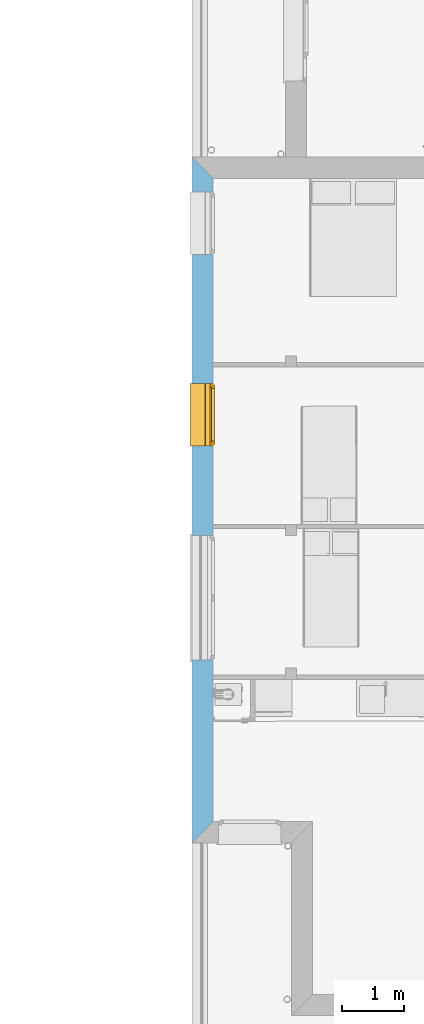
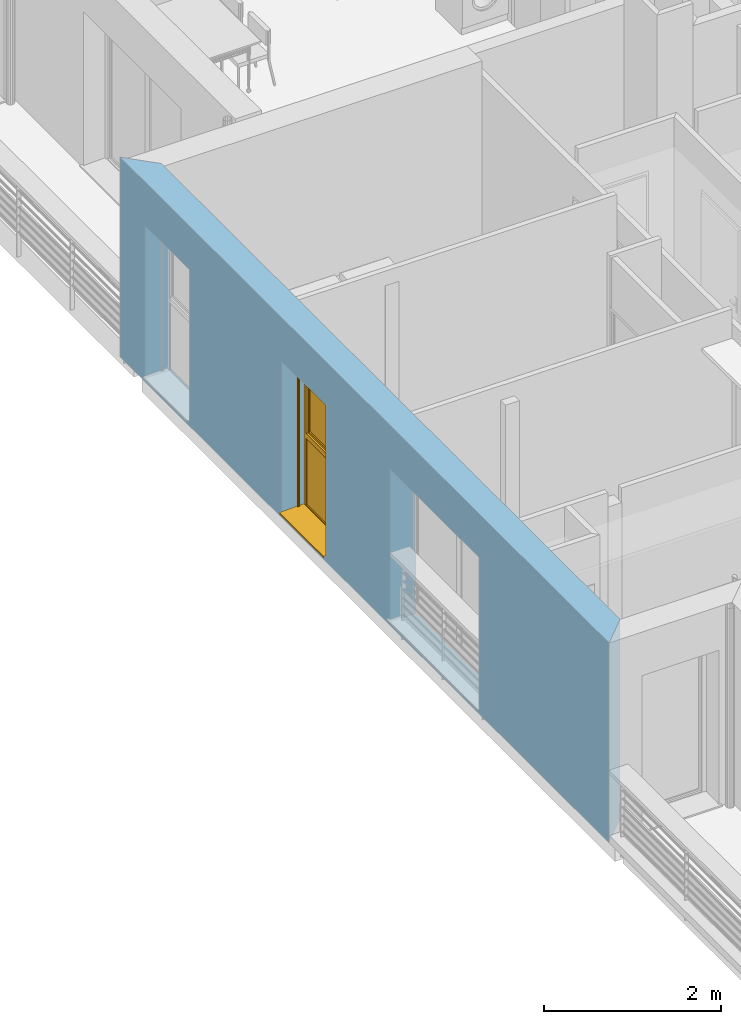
# One storey, part 29 of 171: 1 window, 3 openings, plus 1 element that does not belong to this part.
"""IFC2X3 building model written with IfcOpenShell, lengths in millimetres."""

from ifc_helpers import new_model, entity, si_unit, converted_unit, derived_unit, money_unit, direction, frame, origin_with_axes, place, context, subcontext, project, spatial, polyline, outline, extrude, open_shell, faceted_brep, surface_model, source, transform, mapped, material, layer, layer_set, layer_usage, type_object, element, fill, save


model = new_model("IFC2X3")

# Units and contexts
model_context = context("Model", 3, precision=0.01, world=origin_with_axes(), true_north=direction((0.0, 1.0)))
body_context = subcontext(model_context, "Body", "Model", "MODEL_VIEW")
ifc_project = project(units=[si_unit("LENGTHUNIT", "METRE", prefix="MILLI"), si_unit("AREAUNIT", "SQUARE_METRE"), si_unit("VOLUMEUNIT", "CUBIC_METRE"), converted_unit("PLANEANGLEUNIT", "DEGREE", entity("IfcPlaneAngleMeasure", 0.0174532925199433), si_unit("PLANEANGLEUNIT", "RADIAN"), dimensions=[0, 0, 0, 0, 0, 0, 0]), money_unit("USD"), converted_unit("TIMEUNIT", "Year", entity("IfcTimeMeasure", 31557600.0), si_unit("TIMEUNIT", "SECOND"), dimensions=[0, 0, 1, 0, 0, 0, 0]), si_unit("MASSUNIT", "GRAM", prefix="KILO"), si_unit("THERMODYNAMICTEMPERATUREUNIT", "DEGREE_CELSIUS"), si_unit("LUMINOUSINTENSITYUNIT", "LUMEN"), si_unit("ENERGYUNIT", "JOULE", prefix="MEGA"), derived_unit("THERMALCONDUCTANCEUNIT", [(si_unit("POWERUNIT", "WATT"), 1), (si_unit("LENGTHUNIT", "METRE"), -1), (si_unit("THERMODYNAMICTEMPERATUREUNIT", "KELVIN"), -1)]), derived_unit("SPECIFICHEATCAPACITYUNIT", [(si_unit("ENERGYUNIT", "JOULE"), 1), (si_unit("MASSUNIT", "GRAM", prefix="KILO"), -1), (si_unit("THERMODYNAMICTEMPERATUREUNIT", "KELVIN"), -1)]), derived_unit("MASSDENSITYUNIT", [(si_unit("MASSUNIT", "GRAM", prefix="KILO"), 1), (si_unit("VOLUMEUNIT", "CUBIC_METRE"), -1)])], contexts=[model_context])

# Site, building, storey
site_placement = place(None, origin_with_axes())
site = spatial("IfcSite", under=ifc_project, at=site_placement, Name="Site", CompositionType="ELEMENT")
building_placement = place(site_placement, origin_with_axes())
building = spatial("IfcBuilding", under=site, at=building_placement, Name="Bâtiment", CompositionType="ELEMENT")
storey_placement = place(building_placement, frame((0.0, 0.0, 3000.0), z_axis=(0.0, 0.0, 1.0), x_axis=(1.0, 0.0, 0.0)))
storey = spatial("IfcBuildingStorey", under=building, at=storey_placement, Name="rdc", CompositionType="ELEMENT", Elevation=3000.0)

# Wall, openings, window
ifc_material_1 = material(Name="Parpaing 312445824")
ifc_layer_1 = layer(ifc_material_1, 180.0, ventilated="UNKNOWN")
ifc_material_2 = material(Name="Isolant styromousse 301821074")
ifc_layer_2 = layer(ifc_material_2, 160.0, ventilated="UNKNOWN")
ifc_layer_set = layer_set([ifc_layer_1, ifc_layer_2], Name="isol int 18+16 0018356637")
ifc_layer_usage = layer_usage(ifc_layer_set, "AXIS2", "POSITIVE", 0.0)
wall_type = type_object("IfcWallType", Name="isol int 18+16 0018356637 340", PredefinedType="NOTDEFINED")
wall_placement = place(storey_placement, frame((2216634.233344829, -644016.3765232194, 0.0), z_axis=(0.0, 0.0, 1.0), x_axis=(-5.304001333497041e-10, -1.0, 0.0)))
wall = element("IfcWallStandardCase", 1, at=wall_placement, inside=storey, type_object=wall_type, material=ifc_layer_usage, Name="Mur-143", context=body_context, shape_type="SweptSolid", body=[
    extrude(outline(polyline([(0.0, 0.0), (11025.09125507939, 0.0), (10685.09125489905, 340.0000000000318), (339.9999955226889, 340.0000000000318), (0.0, 0.0)])), origin_with_axes(), (0.0, 0.0, 1.0), 2750.0),
])
opening_1_placement = place(wall_placement, frame((1062.585342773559, 2.273736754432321e-10, 49.99999999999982), z_axis=(0.0, 0.0, 1.0), x_axis=(1.0, 0.0, 0.0)))
element("IfcOpeningElement", 2, at=opening_1_placement, cuts=wall, Name="Fen-154", context=body_context, shape_type="Brep", body=[
    faceted_brep([(-500.0000001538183, 290.0000002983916, 2100.0), (-500.0000001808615, 341.0000002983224, 2100.0), (-500.0000001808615, 341.0000002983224, 0.0), (-500.0000001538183, 290.0000002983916, 0.0), (-500.000000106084, 200.0000002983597, 2100.0), (-500.000000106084, 200.0000002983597, 2300.0), (-500.0000002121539, 400.0000002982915, 2300.0), (-500.0000002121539, 400.0000002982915, 2100.0), (499.9999998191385, 341.0000008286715, 2100.0), (499.9999998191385, 341.0000008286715, 0.0), (499.9999998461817, 290.0000008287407, 0.0), (500.0000000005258, -1.000005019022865, 0.0), (-499.9999999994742, -1.000005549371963, 0.0), (-499.9999999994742, -1.000005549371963, 2100.0), (499.999999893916, 200.0000008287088, 2100.0), (499.999999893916, 200.0000008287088, 2300.0), (499.9999997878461, 400.0000008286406, 2300.0), (499.9999997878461, 400.0000008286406, 2100.0), (499.9999998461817, 290.0000008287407, 2100.0), (500.0000000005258, -1.000005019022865, 2100.0)], [[[0, 1, 2, 3]], [[1, 0, 4, 5, 6, 7]], [[1, 8, 9, 2]], [[10, 11, 12, 3, 2, 9]], [[4, 0, 3, 12, 13]], [[4, 14, 15, 5]], [[15, 16, 6, 5]], [[16, 17, 7, 6]], [[8, 1, 7, 17]], [[8, 18, 10, 9]], [[18, 14, 19, 11, 10]], [[13, 12, 11, 19]], [[14, 4, 13, 19]], [[18, 8, 17, 16, 15, 14]]]),
])
opening_2_placement = place(wall_placement, frame((4141.773490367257, 1.13686837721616e-10, 49.99999999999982), z_axis=(0.0, 0.0, 1.0), x_axis=(1.0, 0.0, 0.0)))
opening_2 = element("IfcOpeningElement", 3, at=opening_2_placement, cuts=wall, Name="Fen-154", context=body_context, shape_type="Brep", body=[
    faceted_brep([(-500.0000001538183, 290.0000019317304, 2100.0), (-500.0000001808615, 341.0000019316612, 2100.0), (-500.0000001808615, 341.0000019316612, 0.0), (-500.0000001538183, 290.0000019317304, 0.0), (-500.000000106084, 200.0000019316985, 2100.0), (-500.000000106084, 200.0000019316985, 2300.0), (-500.0000002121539, 400.0000019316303, 2300.0), (-500.0000002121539, 400.0000019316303, 2100.0), (499.9999998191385, 341.0000024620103, 2100.0), (499.9999998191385, 341.0000024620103, 0.0), (499.9999998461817, 290.0000024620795, 0.0), (500.0000000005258, -1.000003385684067, 0.0), (-499.9999999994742, -1.000003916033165, 0.0), (-499.9999999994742, -1.000003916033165, 2100.0), (499.999999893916, 200.0000024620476, 2100.0), (499.999999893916, 200.0000024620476, 2300.0), (499.9999997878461, 400.0000024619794, 2300.0), (499.9999997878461, 400.0000024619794, 2100.0), (499.9999998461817, 290.0000024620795, 2100.0), (500.0000000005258, -1.000003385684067, 2100.0)], [[[0, 1, 2, 3]], [[1, 0, 4, 5, 6, 7]], [[1, 8, 9, 2]], [[10, 11, 12, 3, 2, 9]], [[4, 0, 3, 12, 13]], [[4, 14, 15, 5]], [[15, 16, 6, 5]], [[16, 17, 7, 6]], [[8, 1, 7, 17]], [[8, 18, 10, 9]], [[18, 14, 19, 11, 10]], [[13, 12, 11, 19]], [[14, 4, 13, 19]], [[18, 8, 17, 16, 15, 14]]]),
])
opening_3_placement = place(wall_placement, frame((7087.273470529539, 1.13686837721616e-10, 49.99999999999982), z_axis=(0.0, 0.0, 1.0), x_axis=(1.0, 0.0, 0.0)))
element("IfcOpeningElement", 4, at=opening_3_placement, cuts=wall, Name="Fen-207", context=body_context, shape_type="Brep", body=[
    faceted_brep([(-1000.000000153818, 290.0000032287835, 2100.0), (-1000.000000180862, 341.0000032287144, 2100.0), (-1000.000000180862, 341.0000032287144, 0.0), (-1000.000000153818, 290.0000032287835, 0.0), (-1000.000000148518, 280.0000032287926, 2100.0), (-1000.000000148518, 280.0000032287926, 2350.0), (-1000.000000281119, 530.0000032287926, 2350.0), (-1000.000000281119, 530.0000032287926, 2100.0), (999.9999998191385, 341.0000042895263, 2100.0), (999.9999998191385, 341.0000042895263, 0.0), (999.9999998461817, 290.0000042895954, 0.0), (1000.000000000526, -1.000001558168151, 0.0), (-999.9999999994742, -1.000002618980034, 0.0), (-999.9999999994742, -1.000002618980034, 2100.0), (999.9999998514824, 280.0000042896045, 2100.0), (999.9999998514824, 280.0000042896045, 2350.0), (999.9999997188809, 530.0000042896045, 2350.0), (999.9999997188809, 530.0000042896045, 2100.0), (999.9999998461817, 290.0000042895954, 2100.0), (1000.000000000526, -1.000001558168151, 2100.0)], [[[0, 1, 2, 3]], [[1, 0, 4, 5, 6, 7]], [[1, 8, 9, 2]], [[10, 11, 12, 3, 2, 9]], [[4, 0, 3, 12, 13]], [[4, 14, 15, 5]], [[6, 5, 15, 16]], [[7, 6, 16, 17]], [[8, 1, 7, 17]], [[8, 18, 10, 9]], [[18, 14, 19, 11, 10]], [[13, 12, 11, 19]], [[14, 4, 13, 19]], [[18, 8, 17, 16, 15, 14]]]),
])
window_style = type_object("IfcWindowStyle", Name="Fenêtre variable 27", ConstructionType="NOTDEFINED", OperationType="DOUBLE_PANEL_HORIZONTAL", ParameterTakesPrecedence=False, Sizeable=False)
shared_shape = source(origin_with_axes(), body_context, "Body", "SurfaceModel", [
    surface_model("IfcShellBasedSurfaceModel", [(-500.0, -51.00000000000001, 50.0), (-500.0, -51.00000000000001, 40.0), (500.0, -51.00000000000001, 40.00000000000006), (500.0, -51.00000000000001, 50.00000000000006), (-500.0, -369.9999999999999, 28.96551724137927), (500.0, -369.9999999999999, 28.96551724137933), (-500.0, -369.9999999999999, 8.965517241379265), (500.0, -369.9999999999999, 8.965517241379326), (-500.0, -359.9999999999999, 18.96551724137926), (500.0, -359.9999999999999, 18.96551724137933)], [open_shell([[[0, 1, 2, 3]], [[1, 4, 5, 2]], [[4, 6, 7, 5]], [[6, 8, 9, 7]]])]),
    faceted_brep([(-500.0, -140.0, 2300.0), (-497.0, -140.0, 2300.0), (-497.0, 60.00000000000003, 2300.0), (-500.0, 60.00000000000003, 2300.0), (-500.0, -140.0, 2100.0), (-497.0, -140.0, 2100.0), (-497.0, 60.00000000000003, 2100.0), (-500.0, 60.00000000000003, 2100.0)], [[[0, 1, 2, 3]], [[4, 5, 1, 0]], [[1, 5, 6, 2]], [[3, 2, 6, 7]], [[0, 3, 7, 4]], [[7, 6, 5, 4]]]),
    faceted_brep([(497.0, -139.9999999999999, 2300.0), (500.0, -139.9999999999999, 2300.0), (500.0, 60.00000000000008, 2300.0), (497.0, 60.00000000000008, 2300.0), (497.0, -139.9999999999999, 2100.0), (500.0, -139.9999999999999, 2100.0), (500.0, 60.00000000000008, 2100.0), (497.0, 60.00000000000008, 2100.0)], [[[0, 1, 2, 3]], [[4, 5, 1, 0]], [[1, 5, 6, 2]], [[3, 2, 6, 7]], [[0, 3, 7, 4]], [[7, 6, 5, 4]]]),
    faceted_brep([(-497.0, -140.0, 2100.0), (497.0, -139.9999999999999, 2100.0), (497.0, -139.9999999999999, 2300.0), (-497.0, -140.0, 2300.0), (-497.0, -137.0, 2100.0), (497.0, -136.9999999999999, 2100.0), (497.0, -136.9999999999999, 2297.0), (497.0, 57.00000000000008, 2297.0), (497.0, 57.00000000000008, 2103.0), (497.0, -117.9999999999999, 2103.0), (497.0, -117.9999999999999, 2100.0), (497.0, 60.00000000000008, 2100.0), (497.0, 60.00000000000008, 2300.0), (-497.0, 60.00000000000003, 2300.0), (-497.0, 60.00000000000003, 2100.0), (-497.0, -118.0, 2100.0), (-497.0, -118.0, 2103.0), (-497.0, 57.00000000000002, 2103.0), (-497.0, 57.00000000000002, 2297.0), (-497.0, -137.0, 2297.0)], [[[0, 1, 2, 3]], [[4, 5, 1, 0]], [[1, 5, 6, 7, 8, 9, 10, 11, 12, 2]], [[3, 2, 12, 13]], [[0, 3, 13, 14, 15, 16, 17, 18, 19, 4]], [[19, 6, 5, 4]], [[18, 7, 6, 19]], [[17, 8, 7, 18]], [[16, 9, 8, 17]], [[15, 10, 9, 16]], [[14, 11, 10, 15]], [[13, 12, 11, 14]]]),
    faceted_brep([(-494.0, -120.7542357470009, 2185.760849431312), (-494.0, -122.0, 2200.0), (-494.0, -120.754235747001, 2214.239150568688), (-494.0, -117.0547949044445, 2228.045651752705), (-494.0, -111.0140831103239, 2241.0), (-494.0, -102.8156443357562, 2252.708583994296), (-494.0, -92.70858399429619, 2262.815644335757), (-494.0, -80.99999999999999, 2271.014083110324), (-494.0, -68.04565175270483, 2277.054794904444), (-494.0, -54.23915056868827, 2280.754235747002), (-494.0, -39.99999999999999, 2282.0), (-494.0, -25.76084943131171, 2280.754235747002), (-494.0, -11.95434824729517, 2277.054794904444), (-494.0, 0.999999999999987, 2271.014083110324), (-494.0, 12.7085839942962, 2262.815644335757), (-494.0, 22.81564433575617, 2252.708583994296), (-494.0, 31.01408311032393, 2241.0), (-494.0, 37.05479490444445, 2228.045651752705), (-494.0, 40.75423574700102, 2214.239150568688), (-494.0, 41.99999999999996, 2200.0), (-494.0, 40.754235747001, 2185.760849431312), (-494.0, 37.05479490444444, 2171.954348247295), (-494.0, 31.01408311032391, 2159.0), (-494.0, 22.81564433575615, 2147.291416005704), (-494.0, 12.70858399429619, 2137.184355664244), (-494.0, 0.9999999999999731, 2128.985916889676), (-494.0, -11.95434824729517, 2122.945205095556), (-494.0, -25.7608494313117, 2119.245764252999), (-494.0, -39.99999999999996, 2118.0), (-494.0, -54.23915056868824, 2119.245764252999), (-494.0, -68.04565175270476, 2122.945205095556), (-494.0, -80.9999999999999, 2128.985916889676), (-494.0, -92.7085839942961, 2137.184355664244), (-494.0, -102.8156443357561, 2147.291416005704), (-494.0, -111.0140831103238, 2159.0), (-494.0, -117.0547949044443, 2171.954348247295), (494.0, -120.7542357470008, 2185.760849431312), (494.0, -121.9999999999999, 2200.0), (494.0, -120.754235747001, 2214.239150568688), (494.0, -117.0547949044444, 2228.045651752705), (494.0, -111.0140831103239, 2241.0), (494.0, -102.8156443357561, 2252.708583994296), (494.0, -92.70858399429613, 2262.815644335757), (494.0, -80.99999999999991, 2271.014083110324), (494.0, -68.04565175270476, 2277.054794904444), (494.0, -54.23915056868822, 2280.754235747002), (494.0, -39.99999999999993, 2282.0), (494.0, -25.76084943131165, 2280.754235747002), (494.0, -11.95434824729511, 2277.054794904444), (494.0, 1.00000000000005, 2271.014083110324), (494.0, 12.70858399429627, 2262.815644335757), (494.0, 22.81564433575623, 2252.708583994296), (494.0, 31.01408311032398, 2241.0), (494.0, 37.05479490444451, 2228.045651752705), (494.0, 40.75423574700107, 2214.239150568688), (494.0, 42.00000000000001, 2200.0), (494.0, 40.75423574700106, 2185.760849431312), (494.0, 37.05479490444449, 2171.954348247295), (494.0, 31.01408311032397, 2159.0), (494.0, 22.81564433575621, 2147.291416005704), (494.0, 12.70858399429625, 2137.184355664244), (494.0, 1.000000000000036, 2128.985916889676), (494.0, -11.95434824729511, 2122.945205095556), (494.0, -25.76084943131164, 2119.245764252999), (494.0, -39.99999999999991, 2118.0), (494.0, -54.23915056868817, 2119.245764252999), (494.0, -68.0456517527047, 2122.945205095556), (494.0, -80.99999999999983, 2128.985916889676), (494.0, -92.70858399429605, 2137.184355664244), (494.0, -102.815644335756, 2147.291416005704), (494.0, -111.0140831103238, 2159.0), (494.0, -117.0547949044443, 2171.954348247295)], [[[0, 1, 2, 3, 4, 5, 6, 7, 8, 9, 10, 11, 12, 13, 14, 15, 16, 17, 18, 19, 20, 21, 22, 23, 24, 25, 26, 27, 28, 29, 30, 31, 32, 33, 34, 35]], [[0, 36, 37, 1]], [[1, 37, 38, 2]], [[2, 38, 39, 3]], [[3, 39, 40, 4]], [[4, 40, 41, 5]], [[5, 41, 42, 6]], [[6, 42, 43, 7]], [[7, 43, 44, 8]], [[8, 44, 45, 9]], [[9, 45, 46, 10]], [[10, 46, 47, 11]], [[11, 47, 48, 12]], [[12, 48, 49, 13]], [[13, 49, 50, 14]], [[14, 50, 51, 15]], [[15, 51, 52, 16]], [[16, 52, 53, 17]], [[17, 53, 54, 18]], [[18, 54, 55, 19]], [[19, 55, 56, 20]], [[20, 56, 57, 21]], [[21, 57, 58, 22]], [[22, 58, 59, 23]], [[23, 59, 60, 24]], [[24, 60, 61, 25]], [[25, 61, 62, 26]], [[26, 62, 63, 27]], [[27, 63, 64, 28]], [[28, 64, 65, 29]], [[29, 65, 66, 30]], [[30, 66, 67, 31]], [[31, 67, 68, 32]], [[32, 68, 69, 33]], [[33, 69, 70, 34]], [[34, 70, 71, 35]], [[35, 71, 36, 0]], [[36, 71, 70, 69, 68, 67, 66, 65, 64, 63, 62, 61, 60, 59, 58, 57, 56, 55, 54, 53, 52, 51, 50, 49, 48, 47, 46, 45, 44, 43, 42, 41, 40, 39, 38, 37]]]),
    faceted_brep([(500.0, -115.0, 30.0), (500.0, -114.9999999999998, 2100.0), (500.0, -139.9999999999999, 2100.0), (500.0, -140.0, 30.0), (475.0, -115.0, 30.0), (475.0, -114.9999999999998, 2100.0), (475.0, -117.9999999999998, 2100.0), (497.0, -117.9999999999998, 2100.0), (497.0, -136.9999999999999, 2100.0), (475.0, -136.9999999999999, 2100.0), (475.0, -139.9999999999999, 2100.0), (475.0, -140.0, 30.0), (475.0, -136.9999999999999, 30.0), (497.0, -136.9999999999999, 30.0), (497.0, -118.0, 30.0), (475.0, -118.0, 30.0)], [[[0, 1, 2, 3]], [[4, 5, 1, 0]], [[1, 5, 6, 7, 8, 9, 10, 2]], [[3, 2, 10, 11]], [[0, 3, 11, 12, 13, 14, 15, 4]], [[15, 6, 5, 4]], [[14, 7, 6, 15]], [[13, 8, 7, 14]], [[12, 9, 8, 13]], [[11, 10, 9, 12]]]),
    faceted_brep([(-500.0, -115.0, 30.0), (-500.0, -140.0, 30.0), (-500.0, -139.9999999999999, 2100.0), (-500.0, -114.9999999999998, 2100.0), (-475.0, -115.0, 30.0), (-475.0, -118.0, 30.0), (-497.0, -118.0, 30.0), (-497.0, -136.9999999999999, 30.0), (-475.0, -136.9999999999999, 30.0), (-475.0, -140.0, 30.0), (-475.0, -139.9999999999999, 2100.0), (-475.0, -136.9999999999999, 2100.0), (-497.0, -136.9999999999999, 2100.0), (-497.0, -117.9999999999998, 2100.0), (-475.0, -117.9999999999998, 2100.0), (-475.0, -114.9999999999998, 2100.0)], [[[0, 1, 2, 3]], [[0, 4, 5, 6, 7, 8, 9, 1]], [[1, 9, 10, 2]], [[3, 2, 10, 11, 12, 13, 14, 15]], [[4, 0, 3, 15]], [[5, 4, 15, 14]], [[6, 5, 14, 13]], [[7, 6, 13, 12]], [[8, 7, 12, 11]], [[9, 8, 11, 10]]]),
    surface_model("IfcShellBasedSurfaceModel", [(-497.0, -125.0, 2200.0), (497.0, -124.9999999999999, 2200.0), (497.0, -129.9999999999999, 2200.0), (-497.0, -130.0, 2200.0), (-497.0, -125.0, 2200.0), (-497.0, -130.0, 2200.0), (497.0, -129.9999999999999, 2200.0), (497.0, -124.9999999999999, 2200.0)], [open_shell([[[0, 1, 2, 3]], [[4, 5, 6, 7]]])]),
    faceted_brep([(-497.0, -125.0, 2200.0), (497.0, -124.9999999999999, 2200.0), (497.0, -126.6666666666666, 2183.333333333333), (-497.0, -126.6666666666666, 2183.333333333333), (-497.0, -130.0, 2200.0), (497.0, -129.9999999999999, 2200.0), (497.0, -131.6666666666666, 2183.333333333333), (497.0, -131.6666666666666, 2166.666666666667), (497.0, -129.9999999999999, 2150.0), (497.0, -124.9999999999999, 2150.0), (497.0, -126.6666666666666, 2166.666666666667), (-497.0, -126.6666666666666, 2166.666666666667), (-497.0, -125.0, 2150.0), (-497.0, -130.0, 2150.0), (-497.0, -131.6666666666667, 2166.666666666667), (-497.0, -131.6666666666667, 2183.333333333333)], [[[0, 1, 2, 3]], [[4, 5, 1, 0]], [[1, 5, 6, 7, 8, 9, 10, 2]], [[3, 2, 10, 11]], [[0, 3, 11, 12, 13, 14, 15, 4]], [[15, 6, 5, 4]], [[14, 7, 6, 15]], [[13, 8, 7, 14]], [[12, 9, 8, 13]], [[11, 10, 9, 12]]]),
    faceted_brep([(-497.0, -125.0, 2150.0), (497.0, -124.9999999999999, 2150.0), (497.0, -126.6666666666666, 2133.333333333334), (-497.0, -126.6666666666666, 2133.333333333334), (-497.0, -130.0, 2150.0), (497.0, -129.9999999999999, 2150.0), (497.0, -131.6666666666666, 2133.333333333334), (497.0, -131.6666666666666, 2116.666666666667), (497.0, -129.9999999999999, 2100.0), (497.0, -124.9999999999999, 2100.0), (497.0, -126.6666666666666, 2116.666666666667), (-497.0, -126.6666666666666, 2116.666666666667), (-497.0, -125.0, 2100.0), (-497.0, -130.0, 2100.0), (-497.0, -131.6666666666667, 2116.666666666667), (-497.0, -131.6666666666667, 2133.333333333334)], [[[0, 1, 2, 3]], [[4, 5, 1, 0]], [[1, 5, 6, 7, 8, 9, 10, 2]], [[3, 2, 10, 11]], [[0, 3, 11, 12, 13, 14, 15, 4]], [[15, 6, 5, 4]], [[14, 7, 6, 15]], [[13, 8, 7, 14]], [[12, 9, 8, 13]], [[11, 10, 9, 12]]]),
    faceted_brep([(-475.0000000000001, 0.0, 2050.0), (-500.0, 0.0, 2050.0), (-500.0, -50.00000000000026, 2050.0), (-450.0, -50.00000000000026, 2050.0), (-450.0, -25.00000000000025, 2050.0), (-475.0000000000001, -25.00000000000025, 2050.0), (-475.0000000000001, 0.0, 1010.0), (-450.0, 0.0, 1010.0), (-450.0, 0.0, 965.0), (-450.0, 0.0, 50.00000000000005), (-500.0, 0.0, 50.00000000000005), (-500.0, -50.00000000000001, 50.00000000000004), (-450.0, -50.00000000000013, 1035.0), (-450.0, -50.00000000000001, 50.00000000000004), (-450.0, -50.00000000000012, 965.0), (-450.0, -25.00000000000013, 1035.0), (-450.0, -25.00000000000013, 1010.0), (-475.0000000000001, -25.00000000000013, 1010.0)], [[[0, 1, 2, 3, 4, 5]], [[6, 7, 8, 9, 10, 1, 0]], [[1, 10, 11, 2]], [[12, 3, 2, 11, 13, 14]], [[4, 3, 12, 15]], [[15, 16, 17, 5, 4]], [[5, 17, 6, 0]], [[6, 17, 16, 7]], [[16, 15, 12, 14, 8, 7]], [[9, 8, 14, 13]], [[10, 9, 13, 11]]]),
    faceted_brep([(450.0, -25.00000000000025, 2050.0), (450.0, -50.00000000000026, 2050.0), (500.0, -50.00000000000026, 2050.0), (500.0, 0.0, 2050.0), (475.0000000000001, 0.0, 2050.0), (475.0000000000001, -25.00000000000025, 2050.0), (450.0, -25.00000000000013, 1035.0), (450.0, -50.00000000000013, 1035.0), (500.0, -50.00000000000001, 50.00000000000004), (450.0, -50.00000000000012, 965.0), (450.0, -50.00000000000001, 50.00000000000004), (500.0, 0.0, 50.00000000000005), (475.0000000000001, 0.0, 1010.0), (450.0, 0.0, 50.00000000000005), (450.0, 0.0, 965.0), (450.0, 0.0, 1010.0), (475.0000000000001, -25.00000000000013, 1010.0), (450.0, -25.00000000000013, 1010.0)], [[[0, 1, 2, 3, 4, 5]], [[6, 7, 1, 0]], [[8, 2, 1, 7, 9, 10]], [[11, 3, 2, 8]], [[12, 4, 3, 11, 13, 14, 15]], [[12, 16, 5, 4]], [[5, 16, 17, 6, 0]], [[17, 15, 14, 9, 7, 6]], [[14, 13, 10, 9]], [[13, 11, 8, 10]], [[15, 17, 16, 12]]]),
    faceted_brep([(-450.0, -25.00000000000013, 1035.0), (-450.0, -50.00000000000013, 1035.0), (450.0, -50.00000000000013, 1035.0), (450.0, -25.00000000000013, 1035.0), (-450.0, -25.00000000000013, 1010.0), (-450.0, 0.0, 1010.0), (-450.0, 0.0, 965.0), (-450.0, -50.00000000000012, 965.0), (450.0, -50.00000000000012, 965.0), (450.0, -25.00000000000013, 1010.0), (450.0, 0.0, 965.0), (450.0, 0.0, 1010.0)], [[[0, 1, 2, 3]], [[4, 5, 6, 7, 1, 0]], [[8, 2, 1, 7]], [[9, 3, 2, 8, 10, 11]], [[9, 4, 0, 3]], [[5, 4, 9, 11]], [[11, 10, 6, 5]], [[6, 10, 8, 7]]]),
    faceted_brep([(-475.0000000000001, 0.0, 2050.0), (-500.0, 0.0, 2050.0), (-500.0, 0.0, 2100.0), (500.0, 0.0, 2100.0), (500.0, 0.0, 2050.0), (475.0000000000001, 0.0, 2050.0), (475.0000000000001, 0.0, 2075.0), (-475.0000000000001, 0.0, 2075.0), (-475.0000000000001, -25.00000000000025, 2050.0), (-450.0, -25.00000000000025, 2050.0), (-450.0, -50.00000000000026, 2050.0), (-500.0, -50.00000000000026, 2050.0), (-500.0, -50.00000000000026, 2100.0), (500.0, -50.00000000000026, 2100.0), (500.0, -50.00000000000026, 2050.0), (475.0000000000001, -25.00000000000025, 2050.0), (450.0, -50.00000000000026, 2050.0), (450.0, -25.00000000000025, 2050.0), (475.0000000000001, -25.00000000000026, 2075.0), (-475.0000000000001, -25.00000000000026, 2075.0)], [[[0, 1, 2, 3, 4, 5, 6, 7]], [[8, 9, 10, 11, 1, 0]], [[2, 1, 11, 12]], [[3, 2, 12, 13]], [[4, 3, 13, 14]], [[15, 5, 4, 14, 16, 17]], [[5, 15, 18, 6]], [[6, 18, 19, 7]], [[7, 19, 8, 0]], [[17, 9, 8, 19, 18, 15]], [[17, 16, 10, 9]], [[14, 13, 12, 11, 10, 16]]]),
    faceted_brep([(-450.0, -50.00000000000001, 50.0), (-450.0, 0.0, 50.00000000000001), (-500.0, 0.0, 50.00000000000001), (-500.0, -50.00000000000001, 50.0), (450.0, -50.00000000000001, 50.0), (450.0, 0.0, 50.00000000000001), (500.0, 0.0, 50.00000000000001), (500.0, 0.0, 0.0), (-500.0, 0.0, 0.0), (-500.0, -50.0, 0.0), (500.0, -50.0, 0.0), (500.0, -50.00000000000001, 50.0)], [[[0, 1, 2, 3]], [[4, 5, 1, 0]], [[1, 5, 6, 7, 8, 2]], [[3, 2, 8, 9]], [[0, 3, 9, 10, 11, 4]], [[11, 6, 5, 4]], [[10, 7, 6, 11]], [[9, 8, 7, 10]]]),
    faceted_brep([(-425.0000000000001, -25.00000000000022, 2025.0), (-425.0000000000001, 24.99999999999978, 2025.0), (-475.0000000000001, 24.99999999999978, 2025.0), (-475.0000000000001, -25.00000000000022, 2025.0), (-425.0000000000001, -25.00000000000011, 1060.0), (-425.0000000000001, 24.9999999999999, 1060.0), (-475.0000000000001, 24.9999999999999, 1060.0), (-475.0000000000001, -25.0000000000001, 1060.0)], [[[0, 1, 2, 3]], [[4, 5, 1, 0]], [[1, 5, 6, 2]], [[3, 2, 6, 7]], [[0, 3, 7, 4]], [[7, 6, 5, 4]]]),
    faceted_brep([(425.0000000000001, -25.00000000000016, 1060.0), (425.0000000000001, 24.99999999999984, 1060.0), (475.0000000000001, 24.99999999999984, 1060.0), (475.0000000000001, -25.00000000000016, 1060.0), (425.0000000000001, -25.00000000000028, 2025.0), (425.0000000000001, 24.99999999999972, 2025.0), (475.0000000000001, 24.99999999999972, 2025.0), (475.0000000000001, -25.00000000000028, 2025.0)], [[[0, 1, 2, 3]], [[4, 5, 1, 0]], [[1, 5, 6, 2]], [[3, 2, 6, 7]], [[0, 3, 7, 4]], [[7, 6, 5, 4]]]),
    faceted_brep([(475.0000000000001, -25.00000000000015, 1010.0), (475.0000000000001, 24.99999999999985, 1010.0), (475.0000000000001, 24.99999999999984, 1060.0), (475.0000000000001, -25.00000000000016, 1060.0), (-475.0000000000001, -25.0000000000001, 1010.0), (-475.0000000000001, 24.9999999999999, 1010.0), (-475.0000000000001, 24.9999999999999, 1060.0), (-425.0000000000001, 24.9999999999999, 1060.0), (425.0000000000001, 24.99999999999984, 1060.0), (425.0000000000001, -25.00000000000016, 1060.0), (-425.0000000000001, -25.00000000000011, 1060.0), (-475.0000000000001, -25.0000000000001, 1060.0)], [[[0, 1, 2, 3]], [[4, 5, 1, 0]], [[1, 5, 6, 7, 8, 2]], [[3, 2, 8, 9]], [[0, 3, 9, 10, 11, 4]], [[11, 6, 5, 4]], [[10, 7, 6, 11]], [[9, 8, 7, 10]]]),
    faceted_brep([(-475.0000000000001, -25.00000000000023, 2075.0), (-475.0000000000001, 24.99999999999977, 2075.0), (-475.0000000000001, 24.99999999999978, 2025.0), (-475.0000000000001, -25.00000000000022, 2025.0), (475.0000000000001, -25.00000000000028, 2075.0), (475.0000000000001, 24.99999999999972, 2075.0), (475.0000000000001, 24.99999999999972, 2025.0), (425.0000000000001, 24.99999999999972, 2025.0), (-425.0000000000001, 24.99999999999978, 2025.0), (-425.0000000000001, -25.00000000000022, 2025.0), (425.0000000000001, -25.00000000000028, 2025.0), (475.0000000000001, -25.00000000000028, 2025.0)], [[[0, 1, 2, 3]], [[4, 5, 1, 0]], [[1, 5, 6, 7, 8, 2]], [[3, 2, 8, 9]], [[0, 3, 9, 10, 11, 4]], [[11, 6, 5, 4]], [[10, 7, 6, 11]], [[9, 8, 7, 10]]]),
    surface_model("IfcShellBasedSurfaceModel", [(-425.0000000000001, -10.00000000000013, 1060.0), (425.0000000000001, -10.00000000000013, 1060.0), (425.0000000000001, -10.00000000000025, 2025.0), (-425.0000000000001, -10.00000000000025, 2025.0)], [open_shell([[[0, 1, 2, 3]]])]),
    surface_model("IfcShellBasedSurfaceModel", [(-425.0000000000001, 9.999999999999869, 1060.0), (-425.0000000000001, 9.99999999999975, 2025.0), (425.0000000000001, 9.99999999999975, 2025.0), (425.0000000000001, 9.999999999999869, 1060.0)], [open_shell([[[0, 1, 2, 3]]])]),
    surface_model("IfcShellBasedSurfaceModel", [(-450.0, -35.0, 49.99999999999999), (450.0, -35.0, 49.99999999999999), (450.0, -35.00000000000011, 965.0), (-450.0, -35.00000000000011, 965.0)], [open_shell([[[0, 1, 2, 3]]])]),
    surface_model("IfcShellBasedSurfaceModel", [(-450.0, -15.0, 49.99999999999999), (-450.0, -15.00000000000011, 965.0), (450.0, -15.00000000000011, 965.0), (450.0, -15.0, 49.99999999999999)], [open_shell([[[0, 1, 2, 3]]])]),
])
window_placement = place(opening_2_placement, frame((-500.0000000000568, 3.410605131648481e-10, 0.0), z_axis=(0.0, 0.0, 1.0), x_axis=(1.0, 0.0, 0.0)))
window = element("IfcWindow", 5, at=window_placement, inside=storey, type_object=window_style, Name="Fen-154", OverallHeight=2100.0, OverallWidth=1000.0, context=body_context, shape_type="MappedRepresentation", body=[
    mapped(shared_shape, transform((499.9999998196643, 340.0000021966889, 0.0))),
])
fill(opening_2, window)

save(model, "model.ifc")
